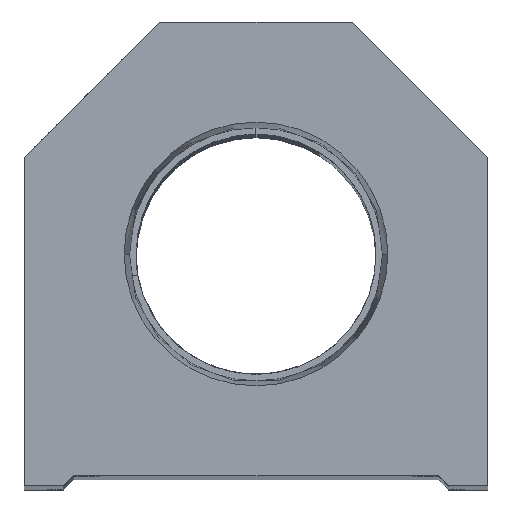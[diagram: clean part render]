
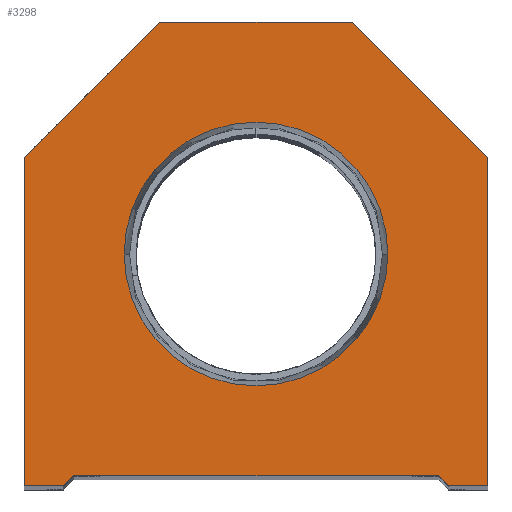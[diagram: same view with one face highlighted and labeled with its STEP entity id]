
A CAD part, top view. The second image highlights one B-rep face of the part: STEP entity #3298.
In plain terms, the highlighted planar face has unit normal (0, 0, 1).
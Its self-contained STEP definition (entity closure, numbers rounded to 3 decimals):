
#40 = CARTESIAN_POINT ( 'NONE',  ( -9.25, 9.25, 0. ) ) ;
#116 = CARTESIAN_POINT ( 'NONE',  ( -17.5, 1., 0. ) ) ;
#208 = PLANE ( 'NONE',  #4698 ) ;
#223 = VERTEX_POINT ( 'NONE', #5996 ) ;
#447 = DIRECTION ( 'NONE',  ( 1., 0., 0. ) ) ;
#566 = CARTESIAN_POINT ( 'NONE',  ( -18.5, 0., 0. ) ) ;
#735 = VERTEX_POINT ( 'NONE', #566 ) ;
#778 = EDGE_CURVE ( 'NONE', #11668, #11021, #9712, .T. ) ;
#1067 = EDGE_CURVE ( 'NONE', #2116, #6260, #7539, .T. ) ;
#1096 = CARTESIAN_POINT ( 'NONE',  ( 0., 22.25, 0. ) ) ;
#1185 = CARTESIAN_POINT ( 'NONE',  ( -17.5, 1., 0. ) ) ;
#1196 = DIRECTION ( 'NONE',  ( -1., 0., 0. ) ) ;
#1204 = VERTEX_POINT ( 'NONE', #14395 ) ;
#1278 = ORIENTED_EDGE ( 'NONE', *, *, #1067, .T. ) ;
#1527 = VECTOR ( 'NONE', #5297, 1000. ) ;
#2004 = LINE ( 'NONE', #40, #3890 ) ;
#2116 = VERTEX_POINT ( 'NONE', #17448 ) ;
#2431 = ORIENTED_EDGE ( 'NONE', *, *, #6478, .T. ) ;
#2550 = VECTOR ( 'NONE', #14528, 1000. ) ;
#2765 = LINE ( 'NONE', #5618, #17698 ) ;
#2854 = DIRECTION ( 'NONE',  ( 1., 0., 0. ) ) ;
#2920 = CARTESIAN_POINT ( 'NONE',  ( -22.25, 0., 0. ) ) ;
#3298 = ADVANCED_FACE ( 'NONE', ( #13676, #9045 ), #208, .T. ) ;
#3569 = VECTOR ( 'NONE', #19115, 1000. ) ;
#3629 = DIRECTION ( 'NONE',  ( 1., 0., 0. ) ) ;
#3890 = VECTOR ( 'NONE', #4569, 1000. ) ;
#4181 = LINE ( 'NONE', #5560, #9514 ) ;
#4279 = VERTEX_POINT ( 'NONE', #7873 ) ;
#4503 = ORIENTED_EDGE ( 'NONE', *, *, #5135, .T. ) ;
#4569 = DIRECTION ( 'NONE',  ( 0.707, 0.707, 0. ) ) ;
#4594 = CARTESIAN_POINT ( 'NONE',  ( 17.5, 0., 0. ) ) ;
#4678 = CIRCLE ( 'NONE', #10630, 12.647 ) ;
#4698 = AXIS2_PLACEMENT_3D ( 'NONE', #6470, #18412, #3629 ) ;
#5135 = EDGE_CURVE ( 'NONE', #6260, #4279, #11296, .T. ) ;
#5297 = DIRECTION ( 'NONE',  ( 0., -1., 0. ) ) ;
#5309 = ORIENTED_EDGE ( 'NONE', *, *, #11382, .T. ) ;
#5508 = VECTOR ( 'NONE', #8464, 1000. ) ;
#5560 = CARTESIAN_POINT ( 'NONE',  ( -17.5, 0., 0. ) ) ;
#5574 = ORIENTED_EDGE ( 'NONE', *, *, #5999, .T. ) ;
#5618 = CARTESIAN_POINT ( 'NONE',  ( 9.25, 44.5, 0. ) ) ;
#5795 = CARTESIAN_POINT ( 'NONE',  ( 9.25, 9.25, 0. ) ) ;
#5996 = CARTESIAN_POINT ( 'NONE',  ( 9.25, 44.5, 0. ) ) ;
#5999 = EDGE_CURVE ( 'NONE', #11021, #735, #4181, .T. ) ;
#6049 = EDGE_CURVE ( 'NONE', #735, #7188, #2004, .T. ) ;
#6099 = VECTOR ( 'NONE', #7001, 1000. ) ;
#6260 = VERTEX_POINT ( 'NONE', #6517 ) ;
#6470 = CARTESIAN_POINT ( 'NONE',  ( 0., 0., 0. ) ) ;
#6478 = EDGE_CURVE ( 'NONE', #7188, #16238, #7168, .T. ) ;
#6517 = CARTESIAN_POINT ( 'NONE',  ( 22.25, 0., 0. ) ) ;
#6728 = AXIS2_PLACEMENT_3D ( 'NONE', #13907, #16826, #447 ) ;
#6783 = CARTESIAN_POINT ( 'NONE',  ( 22.25, 0., 0. ) ) ;
#7001 = DIRECTION ( 'NONE',  ( -0.707, -0.707, 0. ) ) ;
#7084 = DIRECTION ( 'NONE',  ( 0., 0., 1. ) ) ;
#7168 = LINE ( 'NONE', #1185, #3569 ) ;
#7188 = VERTEX_POINT ( 'NONE', #116 ) ;
#7539 = LINE ( 'NONE', #4594, #10939 ) ;
#7668 = CIRCLE ( 'NONE', #6728, 12.647 ) ;
#7873 = CARTESIAN_POINT ( 'NONE',  ( 22.25, 31.5, 0. ) ) ;
#8153 = VERTEX_POINT ( 'NONE', #11988 ) ;
#8464 = DIRECTION ( 'NONE',  ( -0.707, 0.707, 0. ) ) ;
#8655 = LINE ( 'NONE', #11419, #5508 ) ;
#8790 = EDGE_CURVE ( 'NONE', #1204, #8153, #7668, .T. ) ;
#9045 = FACE_OUTER_BOUND ( 'NONE', #13874, .T. ) ;
#9113 = ORIENTED_EDGE ( 'NONE', *, *, #778, .T. ) ;
#9445 = EDGE_CURVE ( 'NONE', #14850, #11668, #11710, .T. ) ;
#9514 = VECTOR ( 'NONE', #10365, 1000. ) ;
#9671 = ORIENTED_EDGE ( 'NONE', *, *, #11362, .T. ) ;
#9712 = LINE ( 'NONE', #15691, #1527 ) ;
#9810 = ORIENTED_EDGE ( 'NONE', *, *, #8790, .F. ) ;
#10114 = DIRECTION ( 'NONE',  ( 0., 1., 0. ) ) ;
#10365 = DIRECTION ( 'NONE',  ( 1., 0., 0. ) ) ;
#10578 = DIRECTION ( 'NONE',  ( 1., 0., 0. ) ) ;
#10630 = AXIS2_PLACEMENT_3D ( 'NONE', #1096, #7084, #2854 ) ;
#10939 = VECTOR ( 'NONE', #10578, 1000. ) ;
#11021 = VERTEX_POINT ( 'NONE', #2920 ) ;
#11296 = LINE ( 'NONE', #6783, #18563 ) ;
#11362 = EDGE_CURVE ( 'NONE', #4279, #223, #8655, .T. ) ;
#11382 = EDGE_CURVE ( 'NONE', #223, #14850, #2765, .T. ) ;
#11419 = CARTESIAN_POINT ( 'NONE',  ( 22.25, 31.5, 0. ) ) ;
#11668 = VERTEX_POINT ( 'NONE', #17219 ) ;
#11710 = LINE ( 'NONE', #17661, #6099 ) ;
#11988 = CARTESIAN_POINT ( 'NONE',  ( -12.647, 22.25, 0. ) ) ;
#12673 = EDGE_LOOP ( 'NONE', ( #9810, #16605 ) ) ;
#13533 = CARTESIAN_POINT ( 'NONE',  ( -9.25, 44.5, 0. ) ) ;
#13676 = FACE_BOUND ( 'NONE', #12673, .T. ) ;
#13874 = EDGE_LOOP ( 'NONE', ( #5574, #16535, #2431, #14096, #1278, #4503, #9671, #5309, #15053, #9113 ) ) ;
#13907 = CARTESIAN_POINT ( 'NONE',  ( 0., 22.25, 0. ) ) ;
#14096 = ORIENTED_EDGE ( 'NONE', *, *, #18347, .T. ) ;
#14395 = CARTESIAN_POINT ( 'NONE',  ( 12.647, 22.25, 0. ) ) ;
#14411 = EDGE_CURVE ( 'NONE', #8153, #1204, #4678, .T. ) ;
#14528 = DIRECTION ( 'NONE',  ( 0.707, -0.707, 0. ) ) ;
#14850 = VERTEX_POINT ( 'NONE', #13533 ) ;
#15053 = ORIENTED_EDGE ( 'NONE', *, *, #9445, .T. ) ;
#15691 = CARTESIAN_POINT ( 'NONE',  ( -22.25, 0., 0. ) ) ;
#15997 = LINE ( 'NONE', #5795, #2550 ) ;
#16238 = VERTEX_POINT ( 'NONE', #19268 ) ;
#16535 = ORIENTED_EDGE ( 'NONE', *, *, #6049, .T. ) ;
#16605 = ORIENTED_EDGE ( 'NONE', *, *, #14411, .F. ) ;
#16826 = DIRECTION ( 'NONE',  ( 0., 0., 1. ) ) ;
#17219 = CARTESIAN_POINT ( 'NONE',  ( -22.25, 31.5, 0. ) ) ;
#17448 = CARTESIAN_POINT ( 'NONE',  ( 18.5, 0., 0. ) ) ;
#17661 = CARTESIAN_POINT ( 'NONE',  ( -22.25, 31.5, 0. ) ) ;
#17698 = VECTOR ( 'NONE', #1196, 1000. ) ;
#18347 = EDGE_CURVE ( 'NONE', #16238, #2116, #15997, .T. ) ;
#18412 = DIRECTION ( 'NONE',  ( 0., 0., 1. ) ) ;
#18563 = VECTOR ( 'NONE', #10114, 1000. ) ;
#19115 = DIRECTION ( 'NONE',  ( 1., 0., 0. ) ) ;
#19268 = CARTESIAN_POINT ( 'NONE',  ( 17.5, 1., 0. ) ) ;
